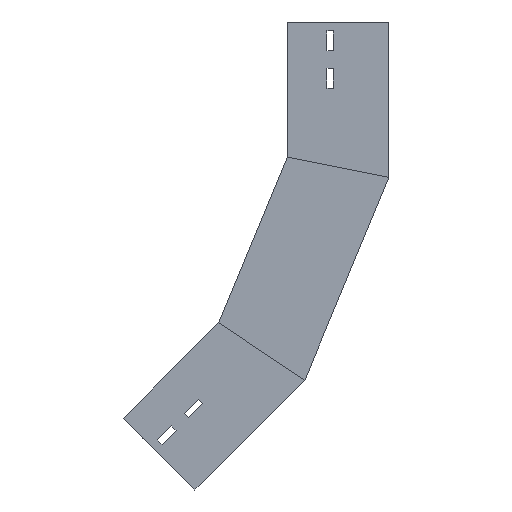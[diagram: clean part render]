
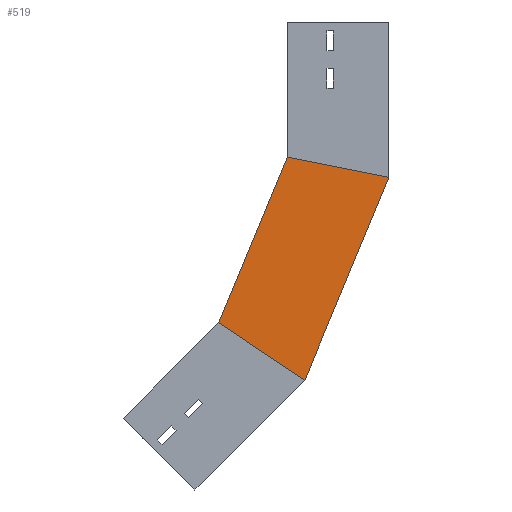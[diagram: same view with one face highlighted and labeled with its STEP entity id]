
A CAD part, left-side view. The second image highlights one B-rep face of the part: STEP entity #519.
In plain terms, the highlighted planar face has unit normal (-1, 0, 0) as drawn and (1, 0, 0) by its records, which use the part's own axes.
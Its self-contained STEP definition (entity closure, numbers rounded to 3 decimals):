
#7 = EDGE_CURVE ( 'NONE', #619, #1029, #973, .T. ) ;
#35 = EDGE_CURVE ( 'NONE', #1029, #946, #1240, .T. ) ;
#126 = EDGE_CURVE ( 'NONE', #619, #1415, #880, .T. ) ;
#134 = VECTOR ( 'NONE', #1125, 1000. ) ;
#225 = CARTESIAN_POINT ( 'NONE',  ( 0., 112.5, -149.722 ) ) ;
#236 = ORIENTED_EDGE ( 'NONE', *, *, #126, .T. ) ;
#354 = ORIENTED_EDGE ( 'NONE', *, *, #363, .T. ) ;
#363 = EDGE_CURVE ( 'NONE', #1415, #946, #1474, .T. ) ;
#370 = AXIS2_PLACEMENT_3D ( 'NONE', #875, #389, #979 ) ;
#389 = DIRECTION ( 'NONE',  ( -1., 0., 0. ) ) ;
#519 = ADVANCED_FACE ( 'NONE', ( #987 ), #625, .F. ) ;
#604 = CARTESIAN_POINT ( 'NONE',  ( 0., 132.464, -370.346 ) ) ;
#617 = CARTESIAN_POINT ( 'NONE',  ( 0., 93.03, -396.695 ) ) ;
#619 = VERTEX_POINT ( 'NONE', #225 ) ;
#625 = PLANE ( 'NONE',  #370 ) ;
#647 = ORIENTED_EDGE ( 'NONE', *, *, #35, .F. ) ;
#696 = EDGE_LOOP ( 'NONE', ( #791, #236, #354, #647 ) ) ;
#769 = VECTOR ( 'NONE', #1452, 1000. ) ;
#790 = VECTOR ( 'NONE', #840, 1000. ) ;
#791 = ORIENTED_EDGE ( 'NONE', *, *, #7, .F. ) ;
#840 = DIRECTION ( 'NONE',  ( 0., -0.831, -0.556 ) ) ;
#868 = CARTESIAN_POINT ( 'NONE',  ( 0., 32.93, -165.55 ) ) ;
#875 = CARTESIAN_POINT ( 'NONE',  ( 0., 0., -172.1 ) ) ;
#880 = LINE ( 'NONE', #868, #769 ) ;
#944 = CARTESIAN_POINT ( 'NONE',  ( 0., 0., -172.1 ) ) ;
#946 = VERTEX_POINT ( 'NONE', #617 ) ;
#973 = LINE ( 'NONE', #1199, #1410 ) ;
#979 = DIRECTION ( 'NONE',  ( 0., 0., 1. ) ) ;
#987 = FACE_OUTER_BOUND ( 'NONE', #696, .T. ) ;
#1029 = VERTEX_POINT ( 'NONE', #1174 ) ;
#1125 = DIRECTION ( 'NONE',  ( 0., 0.383, -0.924 ) ) ;
#1174 = CARTESIAN_POINT ( 'NONE',  ( 0., 188.403, -332.969 ) ) ;
#1199 = CARTESIAN_POINT ( 'NONE',  ( 0., 103.936, -129.048 ) ) ;
#1240 = LINE ( 'NONE', #604, #790 ) ;
#1410 = VECTOR ( 'NONE', #1424, 1000. ) ;
#1415 = VERTEX_POINT ( 'NONE', #944 ) ;
#1424 = DIRECTION ( 'NONE',  ( 0., 0.383, -0.924 ) ) ;
#1452 = DIRECTION ( 'NONE',  ( 0., -0.981, -0.195 ) ) ;
#1474 = LINE ( 'NONE', #1484, #134 ) ;
#1484 = CARTESIAN_POINT ( 'NONE',  ( 0., 0., -172.1 ) ) ;
